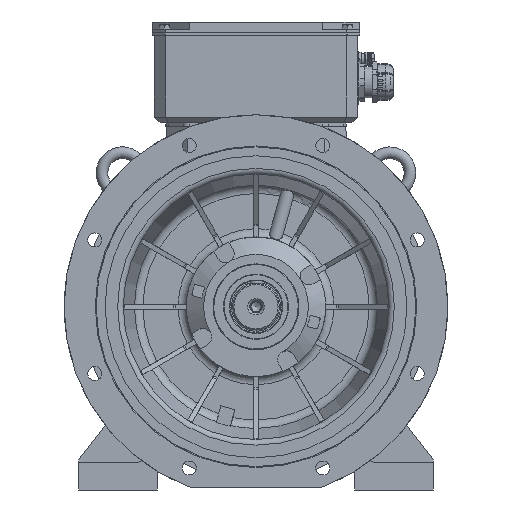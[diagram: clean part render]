
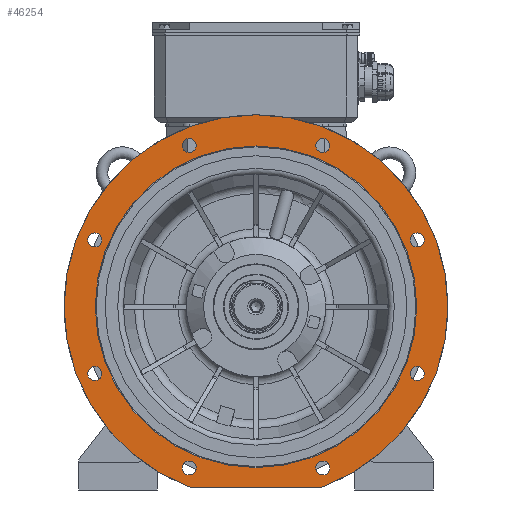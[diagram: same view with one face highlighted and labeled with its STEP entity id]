
A CAD part, front view. The second image highlights one B-rep face of the part: STEP entity #46254.
In plain terms, the highlighted planar face has unit normal (0, -1, 0).
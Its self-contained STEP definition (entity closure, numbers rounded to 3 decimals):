
#1774=PLANE('',#48806);
#2327=CIRCLE('',#47567,3.);
#2328=CIRCLE('',#47569,3.);
#2329=CIRCLE('',#47571,330.);
#2698=CIRCLE('',#48485,12.);
#2700=CIRCLE('',#48488,12.);
#2702=CIRCLE('',#48491,12.);
#2704=CIRCLE('',#48494,12.);
#2706=CIRCLE('',#48497,12.);
#2708=CIRCLE('',#48500,12.);
#2710=CIRCLE('',#48503,12.);
#2712=CIRCLE('',#48506,12.);
#2821=CIRCLE('',#48807,276.4);
#8413=ORIENTED_EDGE('',*,*,#14519,.T.);
#8414=ORIENTED_EDGE('',*,*,#16387,.F.);
#8415=ORIENTED_EDGE('',*,*,#14516,.T.);
#8416=ORIENTED_EDGE('',*,*,#14522,.F.);
#8417=ORIENTED_EDGE('',*,*,#16171,.F.);
#8418=ORIENTED_EDGE('',*,*,#16173,.F.);
#8419=ORIENTED_EDGE('',*,*,#16175,.F.);
#8420=ORIENTED_EDGE('',*,*,#16177,.F.);
#8421=ORIENTED_EDGE('',*,*,#16179,.F.);
#8422=ORIENTED_EDGE('',*,*,#16181,.F.);
#8423=ORIENTED_EDGE('',*,*,#16183,.F.);
#8424=ORIENTED_EDGE('',*,*,#16185,.F.);
#8425=ORIENTED_EDGE('',*,*,#16655,.F.);
#14516=EDGE_CURVE('',#19583,#19584,#2327,.F.);
#14519=EDGE_CURVE('',#19585,#19586,#2328,.F.);
#14522=EDGE_CURVE('',#19585,#19584,#2329,.T.);
#16171=EDGE_CURVE('',#20721,#20721,#2698,.F.);
#16173=EDGE_CURVE('',#20723,#20723,#2700,.F.);
#16175=EDGE_CURVE('',#20725,#20725,#2702,.F.);
#16177=EDGE_CURVE('',#20727,#20727,#2704,.F.);
#16179=EDGE_CURVE('',#20729,#20729,#2706,.F.);
#16181=EDGE_CURVE('',#20731,#20731,#2708,.F.);
#16183=EDGE_CURVE('',#20733,#20733,#2710,.F.);
#16185=EDGE_CURVE('',#20735,#20735,#2712,.F.);
#16387=EDGE_CURVE('',#19583,#19586,#24175,.T.);
#16655=EDGE_CURVE('',#21028,#21028,#2821,.F.);
#19583=VERTEX_POINT('',#62110);
#19584=VERTEX_POINT('',#62111);
#19585=VERTEX_POINT('',#62116);
#19586=VERTEX_POINT('',#62117);
#20721=VERTEX_POINT('',#69647);
#20723=VERTEX_POINT('',#69652);
#20725=VERTEX_POINT('',#69657);
#20727=VERTEX_POINT('',#69662);
#20729=VERTEX_POINT('',#69667);
#20731=VERTEX_POINT('',#69672);
#20733=VERTEX_POINT('',#69677);
#20735=VERTEX_POINT('',#69682);
#21028=VERTEX_POINT('',#71101);
#24175=LINE('',#70168,#26839);
#26839=VECTOR('',#54818,1000.);
#28950=EDGE_LOOP('',(#8413,#8414,#8415,#8416));
#28951=EDGE_LOOP('',(#8417));
#28952=EDGE_LOOP('',(#8418));
#28953=EDGE_LOOP('',(#8419));
#28954=EDGE_LOOP('',(#8420));
#28955=EDGE_LOOP('',(#8421));
#28956=EDGE_LOOP('',(#8422));
#28957=EDGE_LOOP('',(#8423));
#28958=EDGE_LOOP('',(#8424));
#28959=EDGE_LOOP('',(#8425));
#31138=FACE_BOUND('',#28950,.T.);
#31139=FACE_BOUND('',#28951,.T.);
#31140=FACE_BOUND('',#28952,.T.);
#31141=FACE_BOUND('',#28953,.T.);
#31142=FACE_BOUND('',#28954,.T.);
#31143=FACE_BOUND('',#28955,.T.);
#31144=FACE_BOUND('',#28956,.T.);
#31145=FACE_BOUND('',#28957,.T.);
#31146=FACE_BOUND('',#28958,.T.);
#31147=FACE_BOUND('',#28959,.T.);
#46254=ADVANCED_FACE('',(#31138,#31139,#31140,#31141,#31142,#31143,#31144,
#31145,#31146,#31147),#1774,.F.);
#47567=AXIS2_PLACEMENT_3D('',#62109,#51483,#51484);
#47569=AXIS2_PLACEMENT_3D('',#62115,#51489,#51490);
#47571=AXIS2_PLACEMENT_3D('',#62121,#51495,#51496);
#48485=AXIS2_PLACEMENT_3D('',#69646,#54418,#54419);
#48488=AXIS2_PLACEMENT_3D('',#69651,#54424,#54425);
#48491=AXIS2_PLACEMENT_3D('',#69656,#54430,#54431);
#48494=AXIS2_PLACEMENT_3D('',#69661,#54436,#54437);
#48497=AXIS2_PLACEMENT_3D('',#69666,#54442,#54443);
#48500=AXIS2_PLACEMENT_3D('',#69671,#54448,#54449);
#48503=AXIS2_PLACEMENT_3D('',#69676,#54454,#54455);
#48506=AXIS2_PLACEMENT_3D('',#69681,#54460,#54461);
#48806=AXIS2_PLACEMENT_3D('',#71099,#55299,#55300);
#48807=AXIS2_PLACEMENT_3D('',#71100,#55301,#55302);
#51483=DIRECTION('',(0.,1.,0.));
#51484=DIRECTION('',(0.,0.,1.));
#51489=DIRECTION('',(0.,1.,0.));
#51490=DIRECTION('',(0.,0.,1.));
#51495=DIRECTION('',(0.,1.,0.));
#51496=DIRECTION('',(0.,0.,1.));
#54418=DIRECTION('',(0.,1.,0.));
#54419=DIRECTION('',(0.,0.,1.));
#54424=DIRECTION('',(0.,1.,0.));
#54425=DIRECTION('',(0.,0.,1.));
#54430=DIRECTION('',(0.,1.,0.));
#54431=DIRECTION('',(0.,0.,1.));
#54436=DIRECTION('',(0.,1.,0.));
#54437=DIRECTION('',(0.,0.,1.));
#54442=DIRECTION('',(0.,1.,0.));
#54443=DIRECTION('',(0.,0.,1.));
#54448=DIRECTION('',(0.,1.,0.));
#54449=DIRECTION('',(0.,0.,1.));
#54454=DIRECTION('',(0.,1.,0.));
#54455=DIRECTION('',(0.,0.,1.));
#54460=DIRECTION('',(0.,1.,0.));
#54461=DIRECTION('',(0.,0.,1.));
#54818=DIRECTION('',(-1.,0.,0.));
#55299=DIRECTION('',(0.,1.,0.));
#55300=DIRECTION('',(1.,0.,0.));
#55301=DIRECTION('',(0.,1.,0.));
#55302=DIRECTION('',(0.,0.,1.));
#62109=CARTESIAN_POINT('',(112.606,-104.997,-307.));
#62110=CARTESIAN_POINT('',(112.606,-104.997,-310.));
#62111=CARTESIAN_POINT('',(113.639,-104.997,-309.817));
#62115=CARTESIAN_POINT('',(-112.606,-104.997,-307.));
#62116=CARTESIAN_POINT('',(-113.639,-104.997,-309.817));
#62117=CARTESIAN_POINT('',(-112.606,-104.997,-310.));
#62121=CARTESIAN_POINT('',(0.,-104.997,0.));
#69646=CARTESIAN_POINT('',(-277.164,-104.997,114.805));
#69647=CARTESIAN_POINT('',(-277.164,-104.997,126.805));
#69651=CARTESIAN_POINT('',(-277.164,-104.997,-114.805));
#69652=CARTESIAN_POINT('',(-277.164,-104.997,-102.805));
#69656=CARTESIAN_POINT('',(-114.805,-104.997,-277.164));
#69657=CARTESIAN_POINT('',(-114.805,-104.997,-265.164));
#69661=CARTESIAN_POINT('',(114.805,-104.997,-277.164));
#69662=CARTESIAN_POINT('',(114.805,-104.997,-265.164));
#69666=CARTESIAN_POINT('',(277.164,-104.997,-114.805));
#69667=CARTESIAN_POINT('',(277.164,-104.997,-102.805));
#69671=CARTESIAN_POINT('',(277.164,-104.997,114.805));
#69672=CARTESIAN_POINT('',(277.164,-104.997,126.805));
#69676=CARTESIAN_POINT('',(114.805,-104.997,277.164));
#69677=CARTESIAN_POINT('',(114.805,-104.997,289.164));
#69681=CARTESIAN_POINT('',(-114.805,-104.997,277.164));
#69682=CARTESIAN_POINT('',(-114.805,-104.997,289.164));
#70168=CARTESIAN_POINT('',(-113.137,-104.997,-310.));
#71099=CARTESIAN_POINT('',(0.,-104.997,276.4));
#71100=CARTESIAN_POINT('',(0.,-104.997,0.));
#71101=CARTESIAN_POINT('',(0.,-104.997,276.4));
